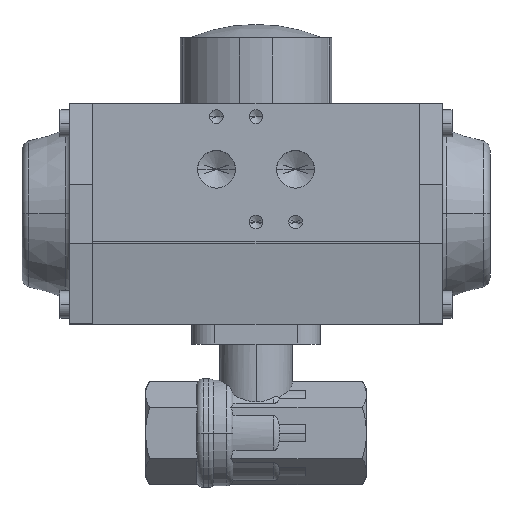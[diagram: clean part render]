
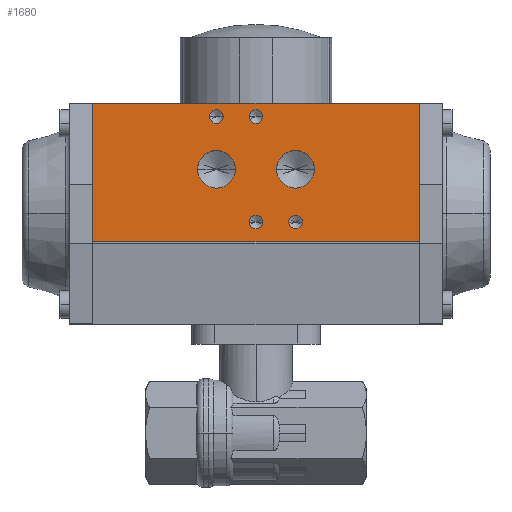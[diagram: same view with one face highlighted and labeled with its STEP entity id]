
A CAD part, top view. The second image highlights one B-rep face of the part: STEP entity #1680.
In plain terms, the highlighted planar face has unit normal (0, 0, 1) as drawn and (1, 0, 0) by its records, which use the part's own axes.
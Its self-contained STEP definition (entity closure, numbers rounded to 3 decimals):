
#95 = EDGE_CURVE ( 'NONE', #11149, #11150, #9405, .T. ) ;
#101 = EDGE_CURVE ( 'NONE', #11154, #11155, #9397, .T. ) ;
#107 = EDGE_CURVE ( 'NONE', #11159, #11160, #9389, .T. ) ;
#113 = EDGE_CURVE ( 'NONE', #11164, #11165, #9381, .T. ) ;
#119 = EDGE_CURVE ( 'NONE', #7046, #7047, #9373, .T. ) ;
#125 = EDGE_CURVE ( 'NONE', #7051, #7052, #9362, .T. ) ;
#230 = EDGE_CURVE ( 'NONE', #10983, #10984, #8033, .T. ) ;
#232 = EDGE_CURVE ( 'NONE', #11150, #11149, #9185, .T. ) ;
#233 = EDGE_CURVE ( 'NONE', #11155, #11154, #9182, .T. ) ;
#234 = EDGE_CURVE ( 'NONE', #11160, #11159, #9180, .T. ) ;
#235 = EDGE_CURVE ( 'NONE', #11165, #11164, #9178, .T. ) ;
#236 = EDGE_CURVE ( 'NONE', #7047, #7046, #9175, .T. ) ;
#237 = EDGE_CURVE ( 'NONE', #7052, #7051, #9173, .T. ) ;
#238 = EDGE_CURVE ( 'NONE', #10986, #10984, #8050, .T. ) ;
#239 = EDGE_CURVE ( 'NONE', #10978, #10986, #8056, .T. ) ;
#240 = EDGE_CURVE ( 'NONE', #10978, #10983, #8055, .T. ) ;
#1680 = ADVANCED_FACE ( 'NONE', ( #5502, #5494, #5508, #5512, #5500, #5504, #5506 ), #5510, .T. ) ;
#2710 = CARTESIAN_POINT ( 'NONE',  ( 36., 13.5, -6.277 ) ) ;
#2711 = CARTESIAN_POINT ( 'NONE',  ( 36., 13.5, -17.722 ) ) ;
#2715 = CARTESIAN_POINT ( 'NONE',  ( 36., 13.5, 17.722 ) ) ;
#2716 = CARTESIAN_POINT ( 'NONE',  ( 36., 13.5, 6.277 ) ) ;
#5486 = CARTESIAN_POINT ( 'NONE',  ( 36., -8.5, -49.5 ) ) ;
#5494 = FACE_BOUND ( 'NONE', #10751, .T. ) ;
#5500 = FACE_BOUND ( 'NONE', #10744, .T. ) ;
#5502 = FACE_BOUND ( 'NONE', #10745, .T. ) ;
#5504 = FACE_BOUND ( 'NONE', #10750, .T. ) ;
#5506 = FACE_OUTER_BOUND ( 'NONE', #10742, .T. ) ;
#5508 = FACE_BOUND ( 'NONE', #10743, .T. ) ;
#5510 = PLANE ( 'NONE',  #8562 ) ;
#5512 = FACE_BOUND ( 'NONE', #10746, .T. ) ;
#5519 = DIRECTION ( 'NONE',  ( 1., 0., 0. ) ) ;
#5521 = DIRECTION ( 'NONE',  ( 0., 0., -1. ) ) ;
#5683 = CARTESIAN_POINT ( 'NONE',  ( 36., -8.5, -49.5 ) ) ;
#5692 = CARTESIAN_POINT ( 'NONE',  ( 36., 33.5, -49.5 ) ) ;
#5694 = CARTESIAN_POINT ( 'NONE',  ( 36., 33.5, 49.5 ) ) ;
#5698 = CARTESIAN_POINT ( 'NONE',  ( 36., -8.5, 49.5 ) ) ;
#5936 = CARTESIAN_POINT ( 'NONE',  ( 36., 29.5, 9.9 ) ) ;
#5947 = CARTESIAN_POINT ( 'NONE',  ( 36., 29.5, 14.1 ) ) ;
#5954 = CARTESIAN_POINT ( 'NONE',  ( 36., -2.5, -9.9 ) ) ;
#5956 = CARTESIAN_POINT ( 'NONE',  ( 36., -2.5, -14.1 ) ) ;
#5964 = CARTESIAN_POINT ( 'NONE',  ( 36., -2.5, 2.1 ) ) ;
#5965 = CARTESIAN_POINT ( 'NONE',  ( 36., -2.5, -2.1 ) ) ;
#5970 = CARTESIAN_POINT ( 'NONE',  ( 36., 29.5, 2.1 ) ) ;
#5972 = CARTESIAN_POINT ( 'NONE',  ( 36., 29.5, -2.1 ) ) ;
#7046 = VERTEX_POINT ( 'NONE', #2710 ) ;
#7047 = VERTEX_POINT ( 'NONE', #2711 ) ;
#7051 = VERTEX_POINT ( 'NONE', #2715 ) ;
#7052 = VERTEX_POINT ( 'NONE', #2716 ) ;
#7459 = CARTESIAN_POINT ( 'NONE',  ( 36., 29.5, 12. ) ) ;
#7460 = DIRECTION ( 'NONE',  ( 1., 0., 0. ) ) ;
#7461 = DIRECTION ( 'NONE',  ( 0., 0., -1. ) ) ;
#7477 = CARTESIAN_POINT ( 'NONE',  ( 36., -2.5, -12. ) ) ;
#7478 = DIRECTION ( 'NONE',  ( 1., 0., 0. ) ) ;
#7479 = DIRECTION ( 'NONE',  ( 0., 0., -1. ) ) ;
#7667 = CARTESIAN_POINT ( 'NONE',  ( 36., -2.5, 0. ) ) ;
#7668 = DIRECTION ( 'NONE',  ( 1., 0., 0. ) ) ;
#7669 = DIRECTION ( 'NONE',  ( 0., 0., -1. ) ) ;
#7685 = CARTESIAN_POINT ( 'NONE',  ( 36., 29.5, 0. ) ) ;
#7686 = DIRECTION ( 'NONE',  ( 1., 0., 0. ) ) ;
#7687 = DIRECTION ( 'NONE',  ( 0., 0., -1. ) ) ;
#7703 = CARTESIAN_POINT ( 'NONE',  ( 36., 13.5, -12. ) ) ;
#7704 = DIRECTION ( 'NONE',  ( 1., 0., 0. ) ) ;
#7705 = DIRECTION ( 'NONE',  ( 0., 0., -1. ) ) ;
#7721 = CARTESIAN_POINT ( 'NONE',  ( 36., 13.5, 12. ) ) ;
#7722 = DIRECTION ( 'NONE',  ( 1., 0., 0. ) ) ;
#7723 = DIRECTION ( 'NONE',  ( 0., 0., -1. ) ) ;
#8033 = LINE ( 'NONE', #8034, #9186 ) ;
#8034 = CARTESIAN_POINT ( 'NONE',  ( 36., 33.5, -49.5 ) ) ;
#8035 = DIRECTION ( 'NONE',  ( 0., 0., 1. ) ) ;
#8038 = CARTESIAN_POINT ( 'NONE',  ( 36., 29.5, 12. ) ) ;
#8039 = DIRECTION ( 'NONE',  ( 1., 0., 0. ) ) ;
#8040 = DIRECTION ( 'NONE',  ( 0., 0., -1. ) ) ;
#8041 = CARTESIAN_POINT ( 'NONE',  ( 36., -2.5, -12. ) ) ;
#8042 = DIRECTION ( 'NONE',  ( 1., 0., 0. ) ) ;
#8043 = DIRECTION ( 'NONE',  ( 0., 0., -1. ) ) ;
#8044 = CARTESIAN_POINT ( 'NONE',  ( 36., -2.5, 0. ) ) ;
#8045 = DIRECTION ( 'NONE',  ( 1., 0., 0. ) ) ;
#8046 = DIRECTION ( 'NONE',  ( 0., 0., -1. ) ) ;
#8047 = CARTESIAN_POINT ( 'NONE',  ( 36., 29.5, 0. ) ) ;
#8048 = DIRECTION ( 'NONE',  ( 1., 0., 0. ) ) ;
#8049 = DIRECTION ( 'NONE',  ( 0., 0., -1. ) ) ;
#8050 = LINE ( 'NONE', #8051, #9171 ) ;
#8051 = CARTESIAN_POINT ( 'NONE',  ( 36., -8.5, 49.5 ) ) ;
#8052 = CARTESIAN_POINT ( 'NONE',  ( 36., 13.5, -12. ) ) ;
#8053 = DIRECTION ( 'NONE',  ( 1., 0., 0. ) ) ;
#8054 = DIRECTION ( 'NONE',  ( 0., 0., -1. ) ) ;
#8055 = LINE ( 'NONE', #8065, #9169 ) ;
#8056 = LINE ( 'NONE', #8062, #9183 ) ;
#8057 = CARTESIAN_POINT ( 'NONE',  ( 36., 13.5, 12. ) ) ;
#8058 = DIRECTION ( 'NONE',  ( 1., 0., 0. ) ) ;
#8059 = DIRECTION ( 'NONE',  ( 0., 0., -1. ) ) ;
#8061 = DIRECTION ( 'NONE',  ( 0., 1., 0. ) ) ;
#8062 = CARTESIAN_POINT ( 'NONE',  ( 36., -8.5, -49.5 ) ) ;
#8064 = DIRECTION ( 'NONE',  ( 0., 0., 1. ) ) ;
#8065 = CARTESIAN_POINT ( 'NONE',  ( 36., -8.5, -49.5 ) ) ;
#8066 = DIRECTION ( 'NONE',  ( 0., 1., 0. ) ) ;
#8562 = AXIS2_PLACEMENT_3D ( 'NONE', #5486, #5519, #5521 ) ;
#9169 = VECTOR ( 'NONE', #8066, 1000. ) ;
#9170 = AXIS2_PLACEMENT_3D ( 'NONE', #8057, #8058, #8059 ) ;
#9171 = VECTOR ( 'NONE', #8061, 1000. ) ;
#9172 = AXIS2_PLACEMENT_3D ( 'NONE', #8052, #8053, #8054 ) ;
#9173 = CIRCLE ( 'NONE', #9170, 5.722 ) ;
#9174 = AXIS2_PLACEMENT_3D ( 'NONE', #8047, #8048, #8049 ) ;
#9175 = CIRCLE ( 'NONE', #9172, 5.722 ) ;
#9176 = AXIS2_PLACEMENT_3D ( 'NONE', #8044, #8045, #8046 ) ;
#9178 = CIRCLE ( 'NONE', #9174, 2.1 ) ;
#9179 = AXIS2_PLACEMENT_3D ( 'NONE', #8041, #8042, #8043 ) ;
#9180 = CIRCLE ( 'NONE', #9176, 2.1 ) ;
#9181 = AXIS2_PLACEMENT_3D ( 'NONE', #8038, #8039, #8040 ) ;
#9182 = CIRCLE ( 'NONE', #9179, 2.1 ) ;
#9183 = VECTOR ( 'NONE', #8064, 1000. ) ;
#9185 = CIRCLE ( 'NONE', #9181, 2.1 ) ;
#9186 = VECTOR ( 'NONE', #8035, 1000. ) ;
#9357 = AXIS2_PLACEMENT_3D ( 'NONE', #7721, #7722, #7723 ) ;
#9362 = CIRCLE ( 'NONE', #9357, 5.722 ) ;
#9368 = AXIS2_PLACEMENT_3D ( 'NONE', #7703, #7704, #7705 ) ;
#9373 = CIRCLE ( 'NONE', #9368, 5.722 ) ;
#9377 = AXIS2_PLACEMENT_3D ( 'NONE', #7685, #7686, #7687 ) ;
#9381 = CIRCLE ( 'NONE', #9377, 2.1 ) ;
#9385 = AXIS2_PLACEMENT_3D ( 'NONE', #7667, #7668, #7669 ) ;
#9389 = CIRCLE ( 'NONE', #9385, 2.1 ) ;
#9393 = AXIS2_PLACEMENT_3D ( 'NONE', #7477, #7478, #7479 ) ;
#9397 = CIRCLE ( 'NONE', #9393, 2.1 ) ;
#9401 = AXIS2_PLACEMENT_3D ( 'NONE', #7459, #7460, #7461 ) ;
#9405 = CIRCLE ( 'NONE', #9401, 2.1 ) ;
#10588 = ORIENTED_EDGE ( 'NONE', *, *, #232, .F. ) ;
#10589 = ORIENTED_EDGE ( 'NONE', *, *, #95, .F. ) ;
#10590 = ORIENTED_EDGE ( 'NONE', *, *, #233, .F. ) ;
#10591 = ORIENTED_EDGE ( 'NONE', *, *, #101, .F. ) ;
#10592 = ORIENTED_EDGE ( 'NONE', *, *, #234, .F. ) ;
#10593 = ORIENTED_EDGE ( 'NONE', *, *, #107, .F. ) ;
#10594 = ORIENTED_EDGE ( 'NONE', *, *, #235, .F. ) ;
#10595 = ORIENTED_EDGE ( 'NONE', *, *, #113, .F. ) ;
#10596 = ORIENTED_EDGE ( 'NONE', *, *, #236, .F. ) ;
#10597 = ORIENTED_EDGE ( 'NONE', *, *, #119, .F. ) ;
#10598 = ORIENTED_EDGE ( 'NONE', *, *, #237, .F. ) ;
#10599 = ORIENTED_EDGE ( 'NONE', *, *, #125, .F. ) ;
#10600 = ORIENTED_EDGE ( 'NONE', *, *, #230, .T. ) ;
#10601 = ORIENTED_EDGE ( 'NONE', *, *, #238, .F. ) ;
#10602 = ORIENTED_EDGE ( 'NONE', *, *, #239, .F. ) ;
#10603 = ORIENTED_EDGE ( 'NONE', *, *, #240, .T. ) ;
#10742 = EDGE_LOOP ( 'NONE', ( #10600, #10601, #10602, #10603 ) ) ;
#10743 = EDGE_LOOP ( 'NONE', ( #10592, #10593 ) ) ;
#10744 = EDGE_LOOP ( 'NONE', ( #10596, #10597 ) ) ;
#10745 = EDGE_LOOP ( 'NONE', ( #10588, #10589 ) ) ;
#10746 = EDGE_LOOP ( 'NONE', ( #10594, #10595 ) ) ;
#10750 = EDGE_LOOP ( 'NONE', ( #10598, #10599 ) ) ;
#10751 = EDGE_LOOP ( 'NONE', ( #10590, #10591 ) ) ;
#10978 = VERTEX_POINT ( 'NONE', #5683 ) ;
#10983 = VERTEX_POINT ( 'NONE', #5692 ) ;
#10984 = VERTEX_POINT ( 'NONE', #5694 ) ;
#10986 = VERTEX_POINT ( 'NONE', #5698 ) ;
#11149 = VERTEX_POINT ( 'NONE', #5947 ) ;
#11150 = VERTEX_POINT ( 'NONE', #5936 ) ;
#11154 = VERTEX_POINT ( 'NONE', #5954 ) ;
#11155 = VERTEX_POINT ( 'NONE', #5956 ) ;
#11159 = VERTEX_POINT ( 'NONE', #5964 ) ;
#11160 = VERTEX_POINT ( 'NONE', #5965 ) ;
#11164 = VERTEX_POINT ( 'NONE', #5970 ) ;
#11165 = VERTEX_POINT ( 'NONE', #5972 ) ;
